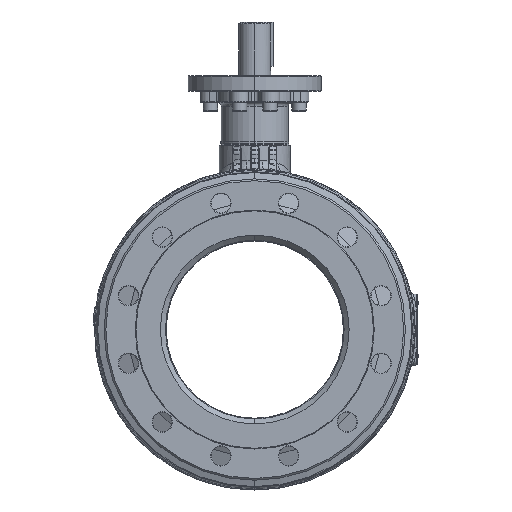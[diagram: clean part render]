
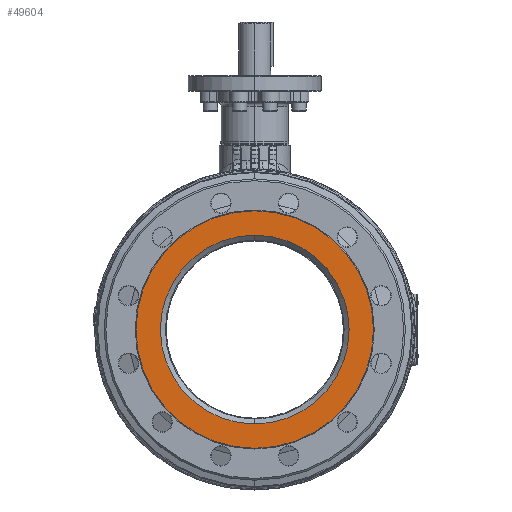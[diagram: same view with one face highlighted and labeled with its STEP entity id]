
A CAD part, left-side view. The second image highlights one B-rep face of the part: STEP entity #49604.
In plain terms, the highlighted planar face has unit normal (-1, 0, 0).
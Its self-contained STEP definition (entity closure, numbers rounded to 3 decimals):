
#16486=CARTESIAN_POINT('',(-200.,0.,0.));
#16487=DIRECTION('',(-1.,0.,0.));
#16488=DIRECTION('',(0.,0.,1.));
#16489=AXIS2_PLACEMENT_3D('',#16486,#16487,#16488);
#16491=CARTESIAN_POINT('',(-200.,0.,0.));
#16492=DIRECTION('',(1.,0.,0.));
#16493=DIRECTION('',(0.,0.,1.));
#16494=AXIS2_PLACEMENT_3D('',#16491,#16492,#16493);
#16501=CARTESIAN_POINT('',(-200.,0.,0.));
#16502=DIRECTION('',(1.,0.,0.));
#16503=DIRECTION('',(0.,0.,1.));
#16504=AXIS2_PLACEMENT_3D('',#16501,#16502,#16503);
#16533=CARTESIAN_POINT('',(-200.,0.,0.));
#16534=DIRECTION('',(-1.,0.,0.));
#16535=DIRECTION('',(0.,0.,1.));
#16536=AXIS2_PLACEMENT_3D('',#16533,#16534,#16535);
#24464=CARTESIAN_POINT('',(-200.,0.,134.));
#24465=CARTESIAN_POINT('',(-200.,0.,-134.));
#24466=VERTEX_POINT('',#24464);
#24467=VERTEX_POINT('',#24465);
#24468=CARTESIAN_POINT('',(-200.,0.,106.5));
#24469=CARTESIAN_POINT('',(-200.,0.,-106.5));
#24470=VERTEX_POINT('',#24468);
#24471=VERTEX_POINT('',#24469);
#49589=CARTESIAN_POINT('',(-200.,0.,0.));
#49590=DIRECTION('',(1.,0.,0.));
#49591=DIRECTION('',(0.,0.,-1.));
#49592=AXIS2_PLACEMENT_3D('',#49589,#49590,#49591);
#49593=PLANE('',#49592);
#49594=ORIENTED_EDGE('',*,*,#49556,.F.);
#49595=ORIENTED_EDGE('',*,*,#49571,.T.);
#49596=EDGE_LOOP('',(#49594,#49595));
#49597=FACE_OUTER_BOUND('',#49596,.F.);
#49599=ORIENTED_EDGE('',*,*,#49598,.F.);
#49601=ORIENTED_EDGE('',*,*,#49600,.T.);
#49602=EDGE_LOOP('',(#49599,#49601));
#49603=FACE_BOUND('',#49602,.F.);
#49604=ADVANCED_FACE('',(#49597,#49603),#49593,.F.);
#16490=CIRCLE('',#16489,134.);
#16495=CIRCLE('',#16494,134.);
#16505=CIRCLE('',#16504,106.5);
#16537=CIRCLE('',#16536,106.5);
#49556=EDGE_CURVE('',#24466,#24467,#16490,.T.);
#49571=EDGE_CURVE('',#24466,#24467,#16495,.T.);
#49598=EDGE_CURVE('',#24470,#24471,#16505,.T.);
#49600=EDGE_CURVE('',#24470,#24471,#16537,.T.);
